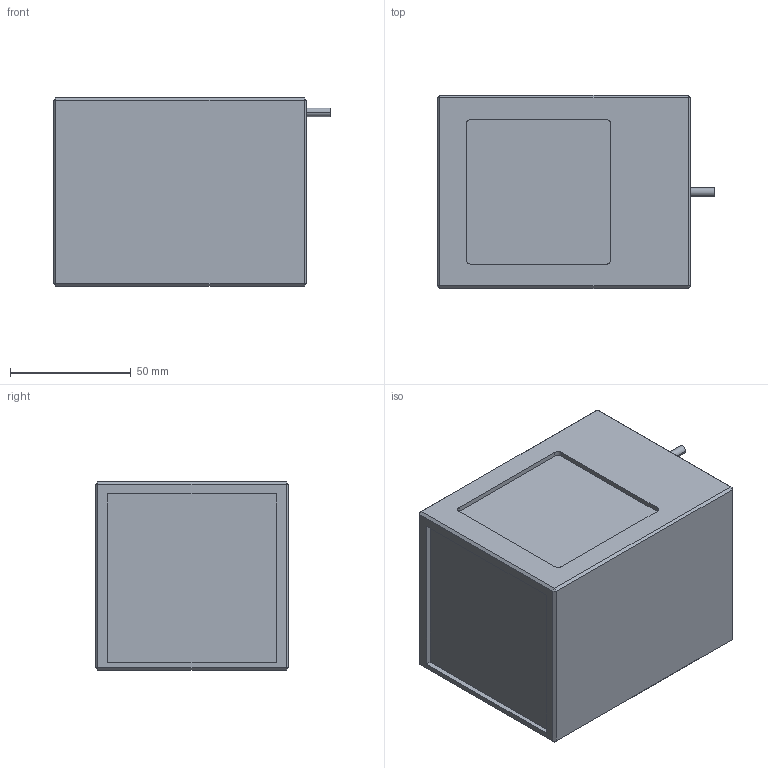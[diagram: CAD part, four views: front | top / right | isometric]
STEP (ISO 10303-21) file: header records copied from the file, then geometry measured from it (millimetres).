
FILE_DESCRIPTION (( 'STEP AP203' ), '1' );
FILE_NAME ('CRT-COLC70-¼òÒ×3DÍ¼.STEP', '2022-07-23T03:37:42', ( 'Admin' ), ( '' ), 'SwSTEP 2.0', 'SolidWorks 2018', '' );
FILE_SCHEMA (( 'CONFIG_CONTROL_DESIGN' ));
Length unit declared in the file: millimetre
Products named in the file (1): CRT-COLC70-潠眢3D芞
Bounding box: 115 x 80 x 78 mm (x, y, z)
Volume: 637669.5 mm3; surface area: 46359.9 mm2
Topology: 1 solids, 1 shells, 59 faces, 130 edges, 72 vertices
Faces by surface type: plane 37, cylinder 14, cone 8
Entity records: 1597 total; most frequent: DIRECTION 270, CARTESIAN_POINT 254, ORIENTED_EDGE 244, EDGE_CURVE 122, LINE 94, VECTOR 94, AXIS2_PLACEMENT_3D 88, VERTEX_POINT 72
